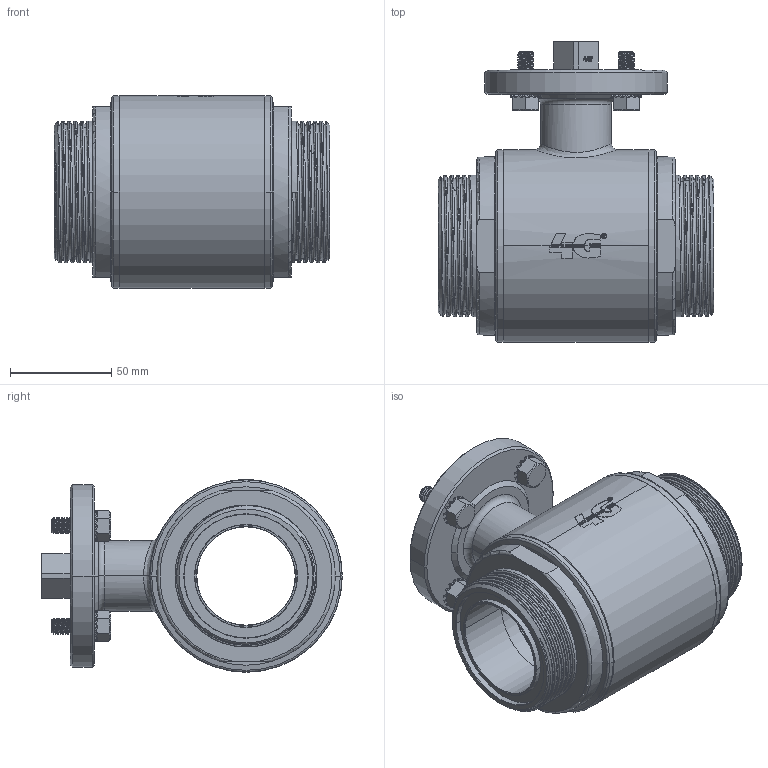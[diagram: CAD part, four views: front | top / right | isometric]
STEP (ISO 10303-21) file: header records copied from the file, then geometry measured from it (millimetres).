
FILE_DESCRIPTION((''),'2;1');
FILE_NAME('PARTE_VUOTA','2024-07-22T15:19:53',('alfio.taboni'),('CDM Tecnoconsulting'),'CREO PARAMETRIC BY PTC INC, 2023374','CREO PARAMETRIC BY PTC INC, 2023374','');
FILE_SCHEMA(('CONFIG_CONTROL_DESIGN','SHAPE_APPEARANCE_LAYERS_GROUPS'));
Products named in the file (1): PARTE_VUOTA
Bounding box: 136 x 148.25 x 95 mm (x, y, z)
Volume: 628799.1 mm3; surface area: 154248.6 mm2
Topology: 1 solids, 9 shells, 1465 faces, 3987 edges, 2573 vertices
Faces by surface type: plane 575, cylinder 422, cone 182, extrusion 111, bspline 103, torus 60, sphere 12
Entity records: 97012 total; most frequent: CARTESIAN_POINT 50147, ORIENTED_EDGE 7956, DIRECTION 6016, PRESENTATION_STYLE_ASSIGNMENT 4005, STYLED_ITEM 3979, CURVE_STYLE 3978, EDGE_CURVE 3978, VERTEX_POINT 2573
